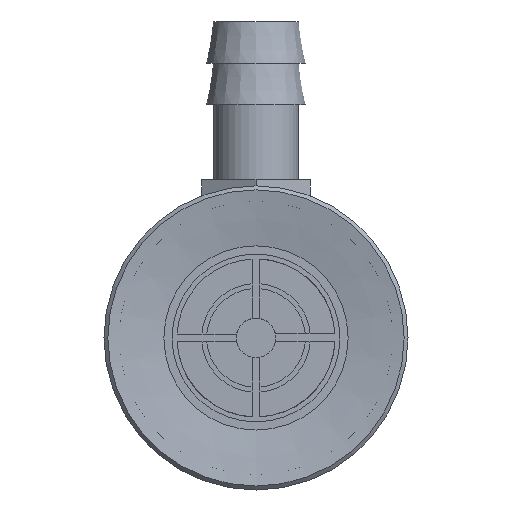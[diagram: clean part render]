
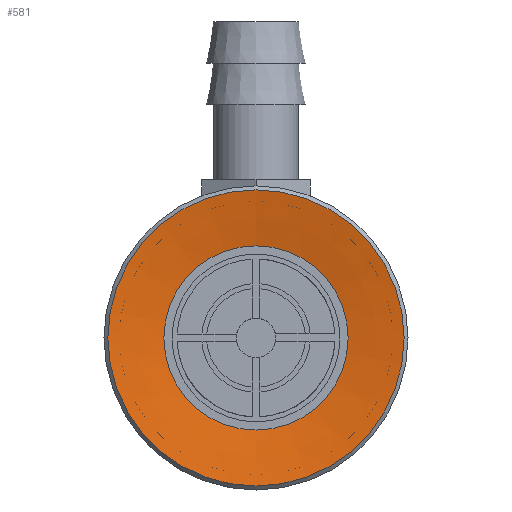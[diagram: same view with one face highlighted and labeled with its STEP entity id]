
A CAD part, front view. The second image highlights one B-rep face of the part: STEP entity #581.
In plain terms, the highlighted conical face has half-angle 80 degrees and reference radius 4.664 mm.
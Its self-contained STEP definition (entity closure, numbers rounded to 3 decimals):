
#581=ADVANCED_FACE('',(#923,#924),#925,.F.);
#923=FACE_BOUND('',#1326,.T.);
#924=FACE_OUTER_BOUND('',#1327,.T.);
#925=CONICAL_SURFACE('',#1328,4.664,1.396);
#1326=EDGE_LOOP('',(#2302));
#1327=EDGE_LOOP('',(#2303));
#1328=AXIS2_PLACEMENT_3D('',#2304,#2305,#2306);
#2302=ORIENTED_EDGE('',*,*,#2805,.F.);
#2303=ORIENTED_EDGE('',*,*,#2801,.T.);
#2304=CARTESIAN_POINT('',(0.0,0.5,0.0));
#2305=DIRECTION('',(-0.0,-1.0,0.));
#2306=DIRECTION('',(0.0,0.,-1.0));
#2801=EDGE_CURVE('',#3288,#3288,#3289,.T.);
#2805=EDGE_CURVE('',#3295,#3295,#3296,.T.);
#3288=VERTEX_POINT('',#4311);
#3289=CIRCLE('',#4312,7.5);
#3295=VERTEX_POINT('',#4336);
#3296=CIRCLE('',#4337,4.664);
#4311=CARTESIAN_POINT('',(0.0,0.,-7.5));
#4312=AXIS2_PLACEMENT_3D('',#4837,#4838,#4839);
#4336=CARTESIAN_POINT('',(0.0,0.5,-4.664));
#4337=AXIS2_PLACEMENT_3D('',#4844,#4845,#4846);
#4837=CARTESIAN_POINT('',(0.0,0.0,0.0));
#4838=DIRECTION('',(0.0,-1.0,0.));
#4839=DIRECTION('',(0.0,0.,-1.0));
#4844=CARTESIAN_POINT('',(0.0,0.5,0.0));
#4845=DIRECTION('',(0.0,-1.0,0.));
#4846=DIRECTION('',(0.0,0.,-1.0));
